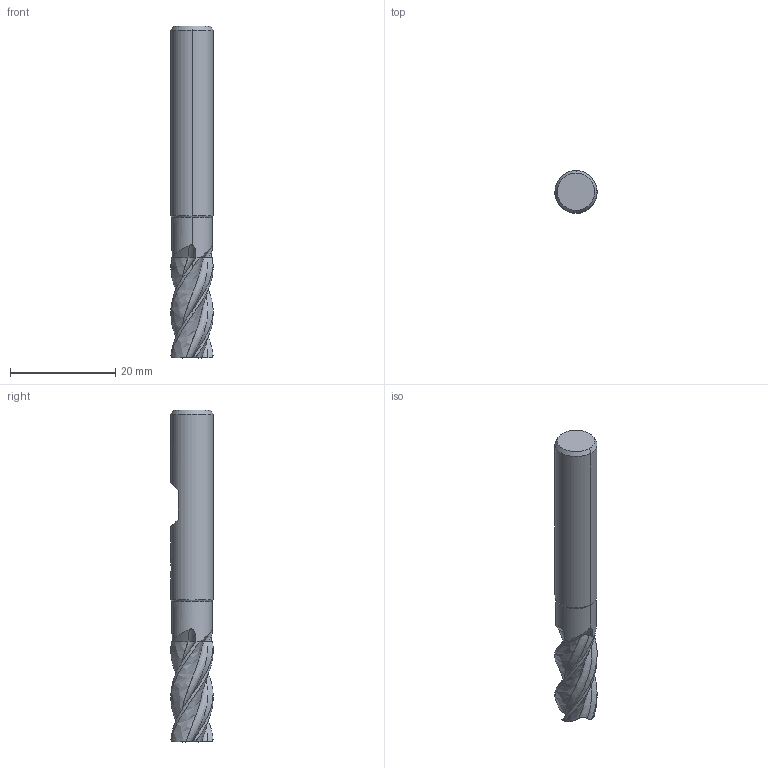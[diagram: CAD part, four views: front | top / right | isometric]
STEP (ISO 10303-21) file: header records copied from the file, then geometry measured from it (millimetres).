
FILE_DESCRIPTION(('no description'),'unknown implementation level');
FILE_NAME('solidEI6HgJaSrAuY25L2De1Q5_HrOog_1.STP',' ',('CIMSOURCE GmbH'),('CADClick - KiM GmbH - www.kimweb.de'),'unknown preprocess','ACIS','unknown authorization');
FILE_SCHEMA(('automotive_design'));
Length unit declared in the file: millimetre
Products named in the file (2): NOCUT; CUT
Bounding box: 8 x 8 x 63 mm (x, y, z)
Volume: 2634.5 mm3; surface area: 2202.8 mm2
Topology: 2 solids, 2 shells, 125 faces, 348 edges, 226 vertices
Faces by surface type: bspline 48, plane 23, cone 20, cylinder 16, revolution 12, torus 6
Entity records: 20932 total; most frequent: CARTESIAN_POINT 14287, STYLED_ITEM 701, PRESENTATION_STYLE_ASSIGNMENT 701, COLOUR_RGB 701, ORIENTED_EDGE 696, DIRECTION 378, EDGE_CURVE 348, CURVE_STYLE 348
